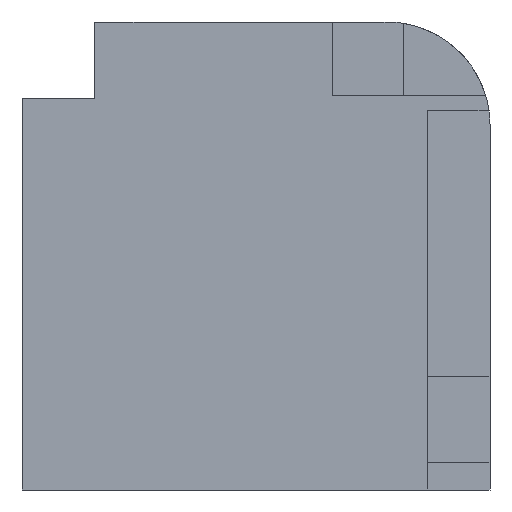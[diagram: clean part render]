
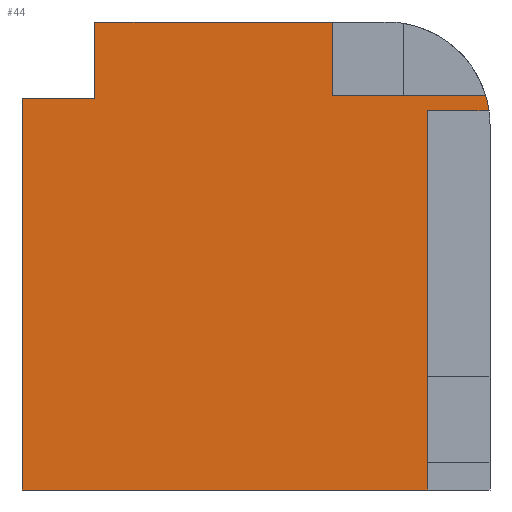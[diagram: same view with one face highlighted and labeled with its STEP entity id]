
A CAD part, left-side view. The second image highlights one B-rep face of the part: STEP entity #44.
In plain terms, the highlighted planar face has unit normal (-1, 0, 0).
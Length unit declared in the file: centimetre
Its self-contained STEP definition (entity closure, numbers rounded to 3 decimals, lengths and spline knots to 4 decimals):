
#10 = ORIENTED_EDGE ( 'NONE', *, *, #1192, .T. ) ;
#26 = CARTESIAN_POINT ( 'NONE',  ( 0., 844.0979, 836.4676 ) ) ;
#44 = ADVANCED_FACE ( 'NONE', ( #429 ), #1112, .F. ) ;
#45 = DIRECTION ( 'NONE',  ( -1., 0., 0. ) ) ;
#58 = VERTEX_POINT ( 'NONE', #340 ) ;
#70 = CARTESIAN_POINT ( 'NONE',  ( 0., 1000., 1000. ) ) ;
#72 = EDGE_CURVE ( 'NONE', #403, #675, #1023, .T. ) ;
#87 = EDGE_CURVE ( 'NONE', #1248, #350, #1004, .T. ) ;
#105 = EDGE_CURVE ( 'NONE', #280, #305, #1125, .T. ) ;
#106 = CARTESIAN_POINT ( 'NONE',  ( 0., 337.1889, 842.9681 ) ) ;
#208 = VECTOR ( 'NONE', #969, 100. ) ;
#232 = CARTESIAN_POINT ( 'NONE',  ( 0., 844.0979, 836.4676 ) ) ;
#264 = VECTOR ( 'NONE', #900, 100. ) ;
#268 = CARTESIAN_POINT ( 'NONE',  ( 0., 1000., 0. ) ) ;
#280 = VERTEX_POINT ( 'NONE', #941 ) ;
#293 = ORIENTED_EDGE ( 'NONE', *, *, #105, .T. ) ;
#305 = VERTEX_POINT ( 'NONE', #552 ) ;
#312 = EDGE_CURVE ( 'NONE', #58, #1248, #647, .T. ) ;
#334 = VERTEX_POINT ( 'NONE', #1045 ) ;
#340 = CARTESIAN_POINT ( 'NONE',  ( 0., 1000., 836.4676 ) ) ;
#346 = DIRECTION ( 'NONE',  ( 0., 0., -1. ) ) ;
#350 = VERTEX_POINT ( 'NONE', #1086 ) ;
#361 = CARTESIAN_POINT ( 'NONE',  ( 0., 337.1889, 842.9681 ) ) ;
#369 = VECTOR ( 'NONE', #465, 100. ) ;
#382 = EDGE_CURVE ( 'NONE', #334, #1084, #875, .T. ) ;
#386 = CARTESIAN_POINT ( 'NONE',  ( 0., 1000., 1000. ) ) ;
#395 = ORIENTED_EDGE ( 'NONE', *, *, #1050, .F. ) ;
#402 = CARTESIAN_POINT ( 'NONE',  ( 0., 132.8164, 0. ) ) ;
#403 = VERTEX_POINT ( 'NONE', #975 ) ;
#416 = VECTOR ( 'NONE', #346, 100. ) ;
#417 = LINE ( 'NONE', #508, #602 ) ;
#429 = FACE_OUTER_BOUND ( 'NONE', #1171, .T. ) ;
#435 = DIRECTION ( 'NONE',  ( 0., 0., -1. ) ) ;
#444 = CARTESIAN_POINT ( 'NONE',  ( 0., 132.8164, 810.0786 ) ) ;
#465 = DIRECTION ( 'NONE',  ( 0., -1., 0. ) ) ;
#482 = LINE ( 'NONE', #386, #208 ) ;
#492 = VERTEX_POINT ( 'NONE', #729 ) ;
#508 = CARTESIAN_POINT ( 'NONE',  ( 0., 0., 810.0786 ) ) ;
#522 = VECTOR ( 'NONE', #1019, 100. ) ;
#533 = DIRECTION ( 'NONE',  ( 0., 0., -1. ) ) ;
#545 = CARTESIAN_POINT ( 'NONE',  ( 0., 337.1889, 842.9681 ) ) ;
#552 = CARTESIAN_POINT ( 'NONE',  ( 0., 9.2062, 842.9681 ) ) ;
#602 = VECTOR ( 'NONE', #807, 100. ) ;
#634 = EDGE_CURVE ( 'NONE', #58, #492, #1218, .T. ) ;
#647 = LINE ( 'NONE', #759, #369 ) ;
#675 = VERTEX_POINT ( 'NONE', #402 ) ;
#685 = DIRECTION ( 'NONE',  ( 0., 0., -1. ) ) ;
#699 = ORIENTED_EDGE ( 'NONE', *, *, #87, .F. ) ;
#715 = ORIENTED_EDGE ( 'NONE', *, *, #312, .F. ) ;
#719 = CARTESIAN_POINT ( 'NONE',  ( 0., 1000., 1000. ) ) ;
#729 = CARTESIAN_POINT ( 'NONE',  ( 0., 1000., 0. ) ) ;
#747 = ORIENTED_EDGE ( 'NONE', *, *, #634, .T. ) ;
#759 = CARTESIAN_POINT ( 'NONE',  ( 0., 844.0979, 836.4676 ) ) ;
#764 = EDGE_CURVE ( 'NONE', #280, #403, #417, .T. ) ;
#771 = DIRECTION ( 'NONE',  ( 0., -1., 0. ) ) ;
#779 = VECTOR ( 'NONE', #771, 100. ) ;
#790 = ORIENTED_EDGE ( 'NONE', *, *, #382, .F. ) ;
#794 = AXIS2_PLACEMENT_3D ( 'NONE', #919, #45, #1117 ) ;
#807 = DIRECTION ( 'NONE',  ( 0., 1., 0. ) ) ;
#816 = AXIS2_PLACEMENT_3D ( 'NONE', #719, #826, #435 ) ;
#826 = DIRECTION ( 'NONE',  ( 1., 0., 0. ) ) ;
#875 = LINE ( 'NONE', #106, #979 ) ;
#900 = DIRECTION ( 'NONE',  ( 0., 0., 1. ) ) ;
#911 = ORIENTED_EDGE ( 'NONE', *, *, #764, .F. ) ;
#919 = CARTESIAN_POINT ( 'NONE',  ( 0., 220.0091, 779.9909 ) ) ;
#928 = LINE ( 'NONE', #361, #522 ) ;
#941 = CARTESIAN_POINT ( 'NONE',  ( 0., 2.0671, 810.0786 ) ) ;
#958 = VECTOR ( 'NONE', #533, 100. ) ;
#969 = DIRECTION ( 'NONE',  ( 0., -1., 0. ) ) ;
#975 = CARTESIAN_POINT ( 'NONE',  ( 0., 132.8164, 810.0786 ) ) ;
#979 = VECTOR ( 'NONE', #685, 100. ) ;
#1004 = LINE ( 'NONE', #232, #264 ) ;
#1019 = DIRECTION ( 'NONE',  ( 0., -1., 0. ) ) ;
#1023 = LINE ( 'NONE', #444, #958 ) ;
#1038 = LINE ( 'NONE', #268, #779 ) ;
#1045 = CARTESIAN_POINT ( 'NONE',  ( 0., 337.1889, 1000. ) ) ;
#1050 = EDGE_CURVE ( 'NONE', #1084, #305, #928, .T. ) ;
#1084 = VERTEX_POINT ( 'NONE', #545 ) ;
#1086 = CARTESIAN_POINT ( 'NONE',  ( 0., 844.0979, 1000. ) ) ;
#1112 = PLANE ( 'NONE',  #816 ) ;
#1117 = DIRECTION ( 'NONE',  ( 0., 0., -1. ) ) ;
#1125 = CIRCLE ( 'NONE', #794, 220.0091 ) ;
#1132 = ORIENTED_EDGE ( 'NONE', *, *, #1180, .F. ) ;
#1171 = EDGE_LOOP ( 'NONE', ( #10, #1200, #911, #293, #395, #790, #1132, #699, #715, #747 ) ) ;
#1180 = EDGE_CURVE ( 'NONE', #350, #334, #482, .T. ) ;
#1192 = EDGE_CURVE ( 'NONE', #492, #675, #1038, .T. ) ;
#1200 = ORIENTED_EDGE ( 'NONE', *, *, #72, .F. ) ;
#1218 = LINE ( 'NONE', #70, #416 ) ;
#1248 = VERTEX_POINT ( 'NONE', #26 ) ;
